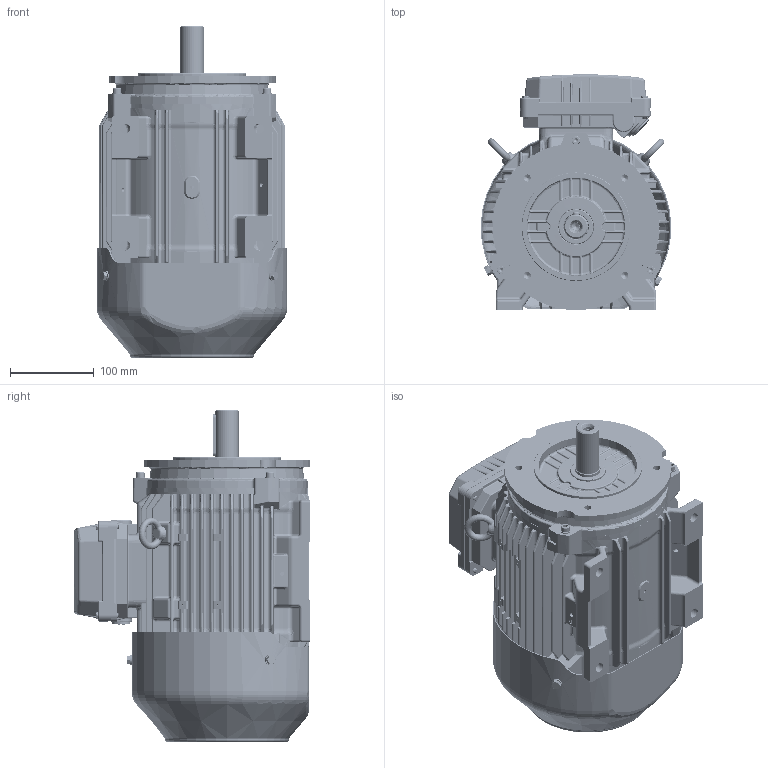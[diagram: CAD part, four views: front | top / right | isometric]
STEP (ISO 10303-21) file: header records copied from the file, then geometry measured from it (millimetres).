
FILE_DESCRIPTION (( 'STEP AP203' ), '1' );
FILE_NAME ('0210000277_RevB.STEP', '2018-07-05T06:03:10', ( '' ), ( '' ), 'SwSTEP 2.0', 'SolidWorks 2015', '' );
FILE_SCHEMA (( 'CONFIG_CONTROL_DESIGN' ));
Products named in the file (1): 0210000277_RevB
Bounding box: 228.4 x 283.38 x 397.5 mm (x, y, z)
Volume: 2705304.9 mm3; surface area: 1112145.8 mm2
Topology: 35 solids, 35 shells, 6895 faces, 16914 edges, 10061 vertices
Faces by surface type: cylinder 2338, bspline 1704, plane 1202, torus 739, cone 725, sphere 187
Entity records: 259921 total; most frequent: CARTESIAN_POINT 108144, ORIENTED_EDGE 33480, DIRECTION 30340, EDGE_CURVE 16740, AXIS2_PLACEMENT_3D 12540, VERTEX_POINT 10047, EDGE_LOOP 7437, CIRCLE 7348
